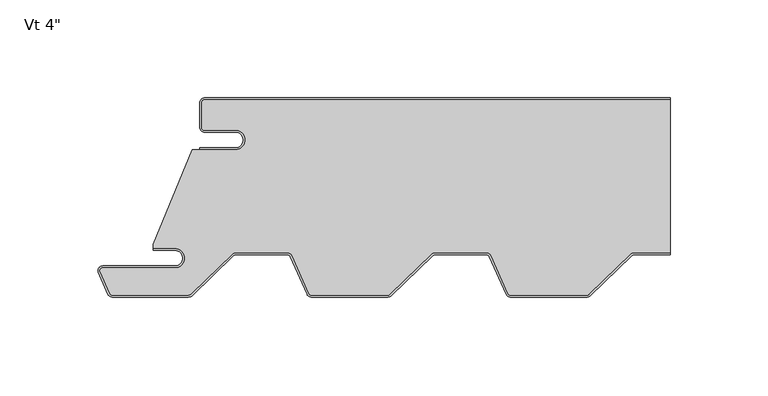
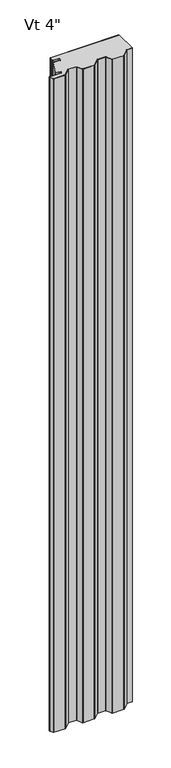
"""IFC4 building model written with IfcOpenShell, lengths in millimetres: plate geometry."""

from ifc_helpers import new_model, si_unit, point, frame_2d, origin, origin_with_axes, place, context, project, spatial, polyline, circle_curve, trimmed, segment, composite_curve, outline, extrude, source, transform, mapped, element, save


def plate_10fc69c3(model_context):
    return source(origin(), model_context, "Body", "SweptSolid", [
        extrude(outline(composite_curve([segment(trimmed(circle_curve(frame_2d((-101.3499998, -21.4324412)), 4.96875), [point((-101.3499998, -26.4011912))], [point((-101.3499998, -16.4636912))], True, "CARTESIAN"), True, "CONTINUOUS"), segment(polyline([(-101.3499998, -16.4636912), (-117.2249998, -16.4636912)]), True, "CONTINUOUS"), segment(trimmed(circle_curve(frame_2d((-117.2249998, -15.0824412)), 1.38125), [point((-117.2249998, -16.4636912))], [point((-118.6062498, -15.0824412))], False, "CARTESIAN"), True, "CONTINUOUS"), segment(polyline([(-118.6062498, -15.0824412), (-118.6062498, -2.3824412)]), True, "CONTINUOUS"), segment(trimmed(circle_curve(frame_2d((-117.2249998, -2.3824412)), 1.38125), [point((-118.6062498, -2.3824412))], [point((-117.2249998, -1.0011912))], False, "CARTESIAN"), True, "CONTINUOUS"), segment(polyline([(-117.2249998, -1.0011912), (120.3999998, -1.0011912), (120.3999998, -79.0862), (101.8679504, -79.0862)]), True, "CONTINUOUS"), segment(trimmed(circle_curve(frame_2d((101.8679504, -81.6737)), 2.5875), [point((101.8679504, -79.0862))], [point((100.0682998, -79.8145567))], True, "CARTESIAN"), True, "CONTINUOUS"), segment(polyline([(100.0682998, -79.8145567), (78.9973964, -100.2111912)]), True, "CONTINUOUS"), segment(trimmed(circle_curve(frame_2d((78.0367133, -99.21875)), 1.38125), [point((78.9973964, -100.2111912))], [point((78.0367133, -100.6))], False, "CARTESIAN"), True, "CONTINUOUS"), segment(polyline([(78.0367133, -100.6), (38.9000059, -100.6)]), True, "CONTINUOUS"), segment(trimmed(circle_curve(frame_2d((38.9000059, -99.21875)), 1.38125), [point((38.9000059, -100.6))], [point((37.6370056, -99.7779296))], False, "CARTESIAN"), True, "CONTINUOUS"), segment(polyline([(37.6370056, -99.7779296), (29.1577807, -80.6261871)]), True, "CONTINUOUS"), segment(trimmed(circle_curve(frame_2d((26.7917983, -81.6737)), 2.5875), [point((29.1577807, -80.6261871))], [point((26.7917983, -79.0862))], True, "CARTESIAN"), True, "CONTINUOUS"), segment(polyline([(26.7917983, -79.0862), (0.2679504, -79.0862)]), True, "CONTINUOUS"), segment(trimmed(circle_curve(frame_2d((0.2679504, -81.6737)), 2.5875), [point((0.2679504, -79.0862))], [point((-1.5317002, -79.8145567))], True, "CARTESIAN"), True, "CONTINUOUS"), segment(polyline([(-1.5317002, -79.8145567), (-22.6026036, -100.2111912)]), True, "CONTINUOUS"), segment(trimmed(circle_curve(frame_2d((-23.5632867, -99.21875)), 1.38125), [point((-22.6026036, -100.2111912))], [point((-23.5632867, -100.6))], False, "CARTESIAN"), True, "CONTINUOUS"), segment(polyline([(-23.5632867, -100.6), (-62.6999941, -100.6)]), True, "CONTINUOUS"), segment(trimmed(circle_curve(frame_2d((-62.6999941, -99.21875)), 1.38125), [point((-62.6999941, -100.6))], [point((-63.9629944, -99.7779296))], False, "CARTESIAN"), True, "CONTINUOUS"), segment(polyline([(-63.9629944, -99.7779296), (-72.4422193, -80.6261871)]), True, "CONTINUOUS"), segment(trimmed(circle_curve(frame_2d((-74.8082017, -81.6737)), 2.5875), [point((-72.4422193, -80.6261871))], [point((-74.8082017, -79.0862))], True, "CARTESIAN"), True, "CONTINUOUS"), segment(polyline([(-74.8082017, -79.0862), (-101.3320496, -79.0862)]), True, "CONTINUOUS"), segment(trimmed(circle_curve(frame_2d((-101.3320496, -81.6737)), 2.5875), [point((-101.3320496, -79.0862))], [point((-103.1317002, -79.8145567))], True, "CARTESIAN"), True, "CONTINUOUS"), segment(polyline([(-103.1317002, -79.8145567), (-123.993943, -100.0092077)]), True, "CONTINUOUS"), segment(trimmed(circle_curve(frame_2d((-125.4536944, -98.5012)), 2.0988), [point((-123.993943, -100.0092077))], [point((-125.4536944, -100.6))], False, "CARTESIAN"), True, "CONTINUOUS"), segment(polyline([(-125.4536944, -100.6), (-164.2999941, -100.6)]), True, "CONTINUOUS"), segment(trimmed(circle_curve(frame_2d((-164.2999941, -99.21875)), 1.38125), [point((-164.2999941, -100.6))], [point((-165.5629944, -99.7779296))], False, "CARTESIAN"), True, "CONTINUOUS"), segment(polyline([(-165.5629944, -99.7779296), (-170.4824051, -88.6666208)]), True, "CONTINUOUS"), segment(trimmed(circle_curve(frame_2d((-169.2194048, -88.1074412)), 1.38125), [point((-170.4824051, -88.6666208))], [point((-169.2194048, -86.7261912))], False, "CARTESIAN"), True, "CONTINUOUS"), segment(polyline([(-169.2194048, -86.7261912), (-132.3062498, -86.7261912)]), True, "CONTINUOUS"), segment(trimmed(circle_curve(frame_2d((-132.3062498, -81.7574412)), 4.96875), [point((-132.3062498, -86.7261912))], [point((-132.3062498, -76.7886912))], True, "CARTESIAN"), True, "CONTINUOUS"), segment(polyline([(-132.3062498, -76.7886912), (-143.4187498, -76.7886912), (-143.4187498, -74.633822), (-123.597661, -26.4011912), (-101.3499998, -26.4011912)]), True, "CONTINUOUS")], self_intersect=False)), origin_with_axes(), (0.0, 0.0, 1.0), 2400.0),
        extrude(outline(composite_curve([segment(polyline([(-119.6062498, -25.4), (-101.3499998, -25.4)]), True, "CONTINUOUS"), segment(trimmed(circle_curve(frame_2d((-101.3499998, -21.43125)), 3.96875), [point((-101.3499998, -25.4))], [point((-101.3499998, -17.4625))], True, "CARTESIAN"), True, "CONTINUOUS"), segment(polyline([(-101.3499998, -17.4625), (-117.2249998, -17.4625)]), True, "CONTINUOUS"), segment(trimmed(circle_curve(frame_2d((-117.2249998, -15.08125)), 2.38125), [point((-117.2249998, -17.4625))], [point((-119.6062498, -15.08125))], False, "CARTESIAN"), True, "CONTINUOUS"), segment(polyline([(-119.6062498, -15.08125), (-119.6062498, -2.38125)]), True, "CONTINUOUS"), segment(trimmed(circle_curve(frame_2d((-117.2249998, -2.38125)), 2.38125), [point((-119.6062498, -2.38125))], [point((-117.2249998, 0.0))], False, "CARTESIAN"), True, "CONTINUOUS"), segment(polyline([(-117.2249998, 0.0), (120.3999998, 0.0), (120.3999998, -1.0), (-117.2249998, -1.0)]), True, "CONTINUOUS"), segment(trimmed(circle_curve(frame_2d((-117.2249998, -2.38125)), 1.38125), [point((-117.2249998, -1.0))], [point((-118.6062498, -2.38125))], True, "CARTESIAN"), True, "CONTINUOUS"), segment(polyline([(-118.6062498, -2.38125), (-118.6062498, -15.08125)]), True, "CONTINUOUS"), segment(trimmed(circle_curve(frame_2d((-117.2249998, -15.08125)), 1.38125), [point((-118.6062498, -15.08125))], [point((-117.2249998, -16.4625))], True, "CARTESIAN"), True, "CONTINUOUS"), segment(polyline([(-117.2249998, -16.4625), (-101.3499998, -16.4625)]), True, "CONTINUOUS"), segment(trimmed(circle_curve(frame_2d((-101.3499998, -21.43125)), 4.96875), [point((-101.3499998, -16.4625))], [point((-101.3499998, -26.4))], False, "CARTESIAN"), True, "CONTINUOUS"), segment(polyline([(-101.3499998, -26.4), (-119.6062498, -26.4), (-119.6062498, -25.4)]), True, "CONTINUOUS")], self_intersect=False)), origin_with_axes(), (0.0, 0.0, 1.0), 2400.0),
        extrude(outline(composite_curve([segment(trimmed(circle_curve(frame_2d((-132.3062498, -81.7574412)), 3.96875), [point((-132.3062498, -85.7261912))], [point((-132.3062498, -77.7886912))], True, "CARTESIAN"), True, "CONTINUOUS"), segment(polyline([(-132.3062498, -77.7886912), (-143.4187498, -77.7886912), (-143.4187498, -76.7886912), (-132.3062498, -76.7886912)]), True, "CONTINUOUS"), segment(trimmed(circle_curve(frame_2d((-132.3062498, -81.7574412)), 4.96875), [point((-132.3062498, -76.7886912))], [point((-132.3062498, -86.7261912))], False, "CARTESIAN"), True, "CONTINUOUS"), segment(polyline([(-132.3062498, -86.7261912), (-169.2194048, -86.7261912)]), True, "CONTINUOUS"), segment(trimmed(circle_curve(frame_2d((-169.2194048, -88.1074412)), 1.38125), [point((-169.2194048, -86.7261912))], [point((-170.4824051, -88.6666208))], True, "CARTESIAN"), True, "CONTINUOUS"), segment(polyline([(-170.4824051, -88.6666208), (-165.5629944, -99.7779296)]), True, "CONTINUOUS"), segment(trimmed(circle_curve(frame_2d((-164.2999941, -99.21875)), 1.38125), [point((-165.5629944, -99.7779296))], [point((-164.2999941, -100.6))], True, "CARTESIAN"), True, "CONTINUOUS"), segment(polyline([(-164.2999941, -100.6), (-125.4536944, -100.6)]), True, "CONTINUOUS"), segment(trimmed(circle_curve(frame_2d((-125.4536944, -98.5012)), 2.0988), [point((-125.4536944, -100.6))], [point((-123.993943, -100.0092077))], True, "CARTESIAN"), True, "CONTINUOUS"), segment(polyline([(-123.993943, -100.0092077), (-103.1317002, -79.8145567)]), True, "CONTINUOUS"), segment(trimmed(circle_curve(frame_2d((-101.3320496, -81.6737)), 2.5875), [point((-103.1317002, -79.8145567))], [point((-101.3320496, -79.0862))], False, "CARTESIAN"), True, "CONTINUOUS"), segment(polyline([(-101.3320496, -79.0862), (-74.8082017, -79.0862)]), True, "CONTINUOUS"), segment(trimmed(circle_curve(frame_2d((-74.8082017, -81.6737)), 2.5875), [point((-74.8082017, -79.0862))], [point((-72.4422193, -80.6261871))], False, "CARTESIAN"), True, "CONTINUOUS"), segment(polyline([(-72.4422193, -80.6261871), (-63.9629944, -99.7779296)]), True, "CONTINUOUS"), segment(trimmed(circle_curve(frame_2d((-62.6999941, -99.21875)), 1.38125), [point((-63.9629944, -99.7779296))], [point((-62.6999941, -100.6))], True, "CARTESIAN"), True, "CONTINUOUS"), segment(polyline([(-62.6999941, -100.6), (-23.5632867, -100.6)]), True, "CONTINUOUS"), segment(trimmed(circle_curve(frame_2d((-23.5632867, -99.21875)), 1.38125), [point((-23.5632867, -100.6))], [point((-22.6026036, -100.2111912))], True, "CARTESIAN"), True, "CONTINUOUS"), segment(polyline([(-22.6026036, -100.2111912), (-1.5317002, -79.8145567)]), True, "CONTINUOUS"), segment(trimmed(circle_curve(frame_2d((0.2679504, -81.6737)), 2.5875), [point((-1.5317002, -79.8145567))], [point((0.2679504, -79.0862))], False, "CARTESIAN"), True, "CONTINUOUS"), segment(polyline([(0.2679504, -79.0862), (26.7917983, -79.0862)]), True, "CONTINUOUS"), segment(trimmed(circle_curve(frame_2d((26.7917983, -81.6737)), 2.5875), [point((26.7917983, -79.0862))], [point((29.1577807, -80.6261871))], False, "CARTESIAN"), True, "CONTINUOUS"), segment(polyline([(29.1577807, -80.6261871), (37.6370056, -99.7779296)]), True, "CONTINUOUS"), segment(trimmed(circle_curve(frame_2d((38.9000059, -99.21875)), 1.38125), [point((37.6370056, -99.7779296))], [point((38.9000059, -100.6))], True, "CARTESIAN"), True, "CONTINUOUS"), segment(polyline([(38.9000059, -100.6), (78.0367133, -100.6)]), True, "CONTINUOUS"), segment(trimmed(circle_curve(frame_2d((78.0367133, -99.21875)), 1.38125), [point((78.0367133, -100.6))], [point((78.9973964, -100.2111912))], True, "CARTESIAN"), True, "CONTINUOUS"), segment(polyline([(78.9973964, -100.2111912), (100.0682998, -79.8145567)]), True, "CONTINUOUS"), segment(trimmed(circle_curve(frame_2d((101.8679504, -81.6737)), 2.5875), [point((100.0682998, -79.8145567))], [point((101.8679504, -79.0862))], False, "CARTESIAN"), True, "CONTINUOUS"), segment(polyline([(101.8679504, -79.0862), (120.3999998, -79.0862), (120.3999998, -80.0862), (101.8679504, -80.0862)]), True, "CONTINUOUS"), segment(trimmed(circle_curve(frame_2d((101.8679504, -81.6737)), 1.5875), [point((101.8679504, -80.0862))], [point((100.7638169, -80.5330662))], True, "CARTESIAN"), True, "CONTINUOUS"), segment(polyline([(100.7638169, -80.5330662), (79.6929135, -100.9297007)]), True, "CONTINUOUS"), segment(trimmed(circle_curve(frame_2d((78.0367133, -99.21875)), 2.38125), [point((79.6929135, -100.9297007))], [point((78.0367133, -101.6))], False, "CARTESIAN"), True, "CONTINUOUS"), segment(polyline([(78.0367133, -101.6), (38.9000059, -101.6)]), True, "CONTINUOUS"), segment(trimmed(circle_curve(frame_2d((38.9000059, -99.21875)), 2.38125), [point((38.9000059, -101.6))], [point((36.7226162, -100.1827655))], False, "CARTESIAN"), True, "CONTINUOUS"), segment(polyline([(36.7226162, -100.1827655), (28.2433914, -81.031023)]), True, "CONTINUOUS"), segment(trimmed(circle_curve(frame_2d((26.7917983, -81.6737)), 1.5875), [point((28.2433914, -81.031023))], [point((26.7917983, -80.0862))], True, "CARTESIAN"), True, "CONTINUOUS"), segment(polyline([(26.7917983, -80.0862), (0.2679504, -80.0862)]), True, "CONTINUOUS"), segment(trimmed(circle_curve(frame_2d((0.2679504, -81.6737)), 1.5875), [point((0.2679504, -80.0862))], [point((-0.8361831, -80.5330662))], True, "CARTESIAN"), True, "CONTINUOUS"), segment(polyline([(-0.8361831, -80.5330662), (-21.9070865, -100.9297007)]), True, "CONTINUOUS"), segment(trimmed(circle_curve(frame_2d((-23.5632867, -99.21875)), 2.38125), [point((-21.9070865, -100.9297007))], [point((-23.5632867, -101.6))], False, "CARTESIAN"), True, "CONTINUOUS"), segment(polyline([(-23.5632867, -101.6), (-62.6999941, -101.6)]), True, "CONTINUOUS"), segment(trimmed(circle_curve(frame_2d((-62.6999941, -99.21875)), 2.38125), [point((-62.6999941, -101.6))], [point((-64.8773838, -100.1827655))], False, "CARTESIAN"), True, "CONTINUOUS"), segment(polyline([(-64.8773838, -100.1827655), (-73.3566086, -81.031023)]), True, "CONTINUOUS"), segment(trimmed(circle_curve(frame_2d((-74.8082017, -81.6737)), 1.5875), [point((-73.3566086, -81.031023))], [point((-74.8082017, -80.0862))], True, "CARTESIAN"), True, "CONTINUOUS"), segment(polyline([(-74.8082017, -80.0862), (-101.3320496, -80.0862)]), True, "CONTINUOUS"), segment(trimmed(circle_curve(frame_2d((-101.3320496, -81.6737)), 1.5875), [point((-101.3320496, -80.0862))], [point((-102.4361831, -80.5330662))], True, "CARTESIAN"), True, "CONTINUOUS"), segment(polyline([(-102.4361831, -80.5330662), (-123.2984258, -100.7277172)]), True, "CONTINUOUS"), segment(trimmed(circle_curve(frame_2d((-125.4536944, -98.5012)), 3.0988), [point((-123.2984258, -100.7277172))], [point((-125.4536944, -101.6))], False, "CARTESIAN"), True, "CONTINUOUS"), segment(polyline([(-125.4536944, -101.6), (-164.2999941, -101.6)]), True, "CONTINUOUS"), segment(trimmed(circle_curve(frame_2d((-164.2999941, -99.21875)), 2.38125), [point((-164.2999941, -101.6))], [point((-166.4773838, -100.1827655))], False, "CARTESIAN"), True, "CONTINUOUS"), segment(polyline([(-166.4773838, -100.1827655), (-171.3967944, -89.0714567)]), True, "CONTINUOUS"), segment(trimmed(circle_curve(frame_2d((-169.2194048, -88.1074412)), 2.38125), [point((-171.3967944, -89.0714567))], [point((-169.2194048, -85.7261912))], False, "CARTESIAN"), True, "CONTINUOUS"), segment(polyline([(-169.2194048, -85.7261912), (-132.3062498, -85.7261912)]), True, "CONTINUOUS")], self_intersect=False)), origin_with_axes(), (0.0, 0.0, 1.0), 2400.0),
    ])


if __name__ == "__main__":
    model = new_model("IFC4")
    model_context = context("Model", 3, world=origin())
    ifc_project = project(units=[si_unit("LENGTHUNIT", "METRE", prefix="MILLI")], contexts=[model_context])
    site = spatial("IfcSite", under=ifc_project)
    building = spatial("IfcBuilding", under=site)
    placement = place(None, origin())
    plate_shape = plate_10fc69c3(model_context)
    element("IfcPlate", 1, ObjectType="KIP-12-DWR-R19-CP-Vt-S : Vt 4\"", at=placement, inside=building, context=model_context, shape_type="MappedRepresentation", body=[
        mapped(plate_shape, transform((0.0, 0.0, 0.0), x_axis=(1.0, 0.0, 0.0), y_axis=(0.0, 1.0, 0.0), z_axis=(0.0, 0.0, 1.0))),
    ])
    save(model, "model.ifc")
